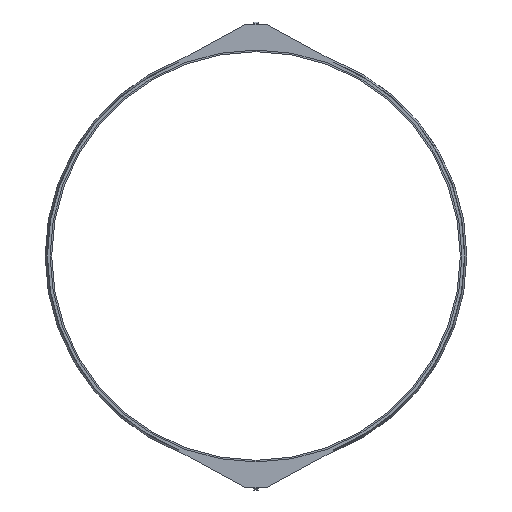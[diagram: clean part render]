
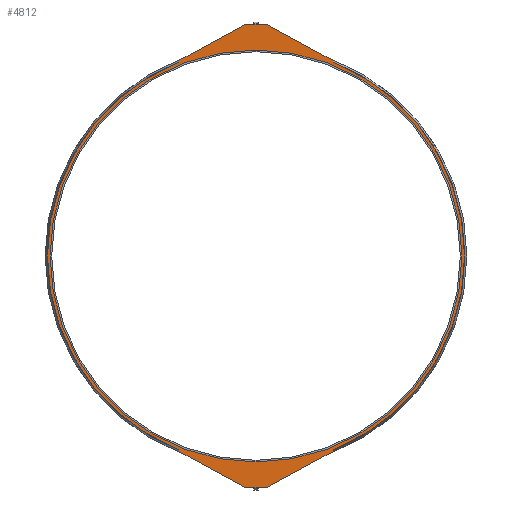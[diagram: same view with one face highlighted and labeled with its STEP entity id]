
A CAD part, left-side view. The second image highlights one B-rep face of the part: STEP entity #4812.
In plain terms, the highlighted planar face has unit normal (-1, 0, 0).
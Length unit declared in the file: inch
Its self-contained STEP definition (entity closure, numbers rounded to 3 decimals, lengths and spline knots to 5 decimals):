
#134=FACE_BOUND('',#838,.T.);
#308=PLANE('',#5231);
#555=FACE_OUTER_BOUND('',#837,.T.);
#837=EDGE_LOOP('',(#4252,#4253,#4254,#4255,#4256,#4257,#4258,#4259,#4260,
#4261,#4262,#4263,#4264,#4265,#4266,#4267,#4268,#4269,#4270,#4271));
#838=EDGE_LOOP('',(#4272,#4273));
#1004=LINE('',#6952,#1469);
#1007=LINE('',#6960,#1472);
#1011=LINE('',#6969,#1476);
#1014=LINE('',#6977,#1479);
#1015=LINE('',#6980,#1480);
#1245=LINE('',#7817,#1710);
#1249=LINE('',#7826,#1714);
#1252=LINE('',#7834,#1717);
#1255=LINE('',#7841,#1720);
#1257=LINE('',#7845,#1722);
#1469=VECTOR('',#5636,0.3937);
#1472=VECTOR('',#5645,0.3937);
#1476=VECTOR('',#5655,0.3937);
#1479=VECTOR('',#5664,0.3937);
#1480=VECTOR('',#5667,0.3937);
#1710=VECTOR('',#6253,0.3937);
#1714=VECTOR('',#6263,0.3937);
#1717=VECTOR('',#6272,0.3937);
#1720=VECTOR('',#6281,0.3937);
#1722=VECTOR('',#6285,0.3937);
#1800=CIRCLE('',#4943,0.063);
#1801=CIRCLE('',#4946,0.125);
#1802=CIRCLE('',#4949,0.125);
#1803=CIRCLE('',#4952,0.063);
#1806=CIRCLE('',#4958,48.625);
#1863=CIRCLE('',#5131,0.063);
#1864=CIRCLE('',#5134,0.125);
#1865=CIRCLE('',#5137,0.125);
#1866=CIRCLE('',#5140,0.063);
#1876=CIRCLE('',#5171,48.625);
#1919=CIRCLE('',#5229,48.);
#1920=CIRCLE('',#5230,48.);
#2056=VERTEX_POINT('',#6944);
#2057=VERTEX_POINT('',#6946);
#2058=VERTEX_POINT('',#6950);
#2059=VERTEX_POINT('',#6954);
#2060=VERTEX_POINT('',#6958);
#2061=VERTEX_POINT('',#6963);
#2062=VERTEX_POINT('',#6967);
#2063=VERTEX_POINT('',#6971);
#2064=VERTEX_POINT('',#6975);
#2065=VERTEX_POINT('',#6979);
#2070=VERTEX_POINT('',#6991);
#2276=VERTEX_POINT('',#7810);
#2277=VERTEX_POINT('',#7812);
#2278=VERTEX_POINT('',#7816);
#2279=VERTEX_POINT('',#7820);
#2280=VERTEX_POINT('',#7825);
#2281=VERTEX_POINT('',#7829);
#2282=VERTEX_POINT('',#7833);
#2283=VERTEX_POINT('',#7837);
#2284=VERTEX_POINT('',#7843);
#2349=VERTEX_POINT('',#8041);
#2350=VERTEX_POINT('',#8043);
#2545=EDGE_CURVE('',#2056,#2057,#1800,.T.);
#2548=EDGE_CURVE('',#2058,#2056,#1004,.T.);
#2550=EDGE_CURVE('',#2059,#2058,#1801,.T.);
#2552=EDGE_CURVE('',#2060,#2059,#1007,.T.);
#2555=EDGE_CURVE('',#2061,#2060,#1802,.T.);
#2557=EDGE_CURVE('',#2062,#2061,#1011,.T.);
#2559=EDGE_CURVE('',#2063,#2062,#1803,.T.);
#2561=EDGE_CURVE('',#2064,#2063,#1014,.T.);
#2562=EDGE_CURVE('',#2057,#2065,#1015,.T.);
#2569=EDGE_CURVE('',#2070,#2064,#1806,.T.);
#2874=EDGE_CURVE('',#2277,#2276,#1863,.T.);
#2876=EDGE_CURVE('',#2278,#2277,#1245,.T.);
#2878=EDGE_CURVE('',#2279,#2278,#1864,.T.);
#2881=EDGE_CURVE('',#2280,#2279,#1249,.T.);
#2883=EDGE_CURVE('',#2281,#2280,#1865,.T.);
#2885=EDGE_CURVE('',#2282,#2281,#1252,.T.);
#2887=EDGE_CURVE('',#2283,#2282,#1866,.T.);
#2889=EDGE_CURVE('',#2070,#2283,#1255,.T.);
#2891=EDGE_CURVE('',#2276,#2284,#1257,.T.);
#2940=EDGE_CURVE('',#2065,#2284,#1876,.T.);
#2990=EDGE_CURVE('',#2350,#2349,#1919,.T.);
#2991=EDGE_CURVE('',#2349,#2350,#1920,.T.);
#4252=ORIENTED_EDGE('',*,*,#2569,.F.);
#4253=ORIENTED_EDGE('',*,*,#2889,.T.);
#4254=ORIENTED_EDGE('',*,*,#2887,.T.);
#4255=ORIENTED_EDGE('',*,*,#2885,.T.);
#4256=ORIENTED_EDGE('',*,*,#2883,.T.);
#4257=ORIENTED_EDGE('',*,*,#2881,.T.);
#4258=ORIENTED_EDGE('',*,*,#2878,.T.);
#4259=ORIENTED_EDGE('',*,*,#2876,.T.);
#4260=ORIENTED_EDGE('',*,*,#2874,.T.);
#4261=ORIENTED_EDGE('',*,*,#2891,.T.);
#4262=ORIENTED_EDGE('',*,*,#2940,.F.);
#4263=ORIENTED_EDGE('',*,*,#2562,.F.);
#4264=ORIENTED_EDGE('',*,*,#2545,.F.);
#4265=ORIENTED_EDGE('',*,*,#2548,.F.);
#4266=ORIENTED_EDGE('',*,*,#2550,.F.);
#4267=ORIENTED_EDGE('',*,*,#2552,.F.);
#4268=ORIENTED_EDGE('',*,*,#2555,.F.);
#4269=ORIENTED_EDGE('',*,*,#2557,.F.);
#4270=ORIENTED_EDGE('',*,*,#2559,.F.);
#4271=ORIENTED_EDGE('',*,*,#2561,.F.);
#4272=ORIENTED_EDGE('',*,*,#2990,.T.);
#4273=ORIENTED_EDGE('',*,*,#2991,.T.);
#4812=ADVANCED_FACE('',(#555,#134),#308,.T.);
#4943=AXIS2_PLACEMENT_3D('',#6947,#5630,#5631);
#4946=AXIS2_PLACEMENT_3D('',#6956,#5640,#5641);
#4949=AXIS2_PLACEMENT_3D('',#6965,#5650,#5651);
#4952=AXIS2_PLACEMENT_3D('',#6973,#5659,#5660);
#4958=AXIS2_PLACEMENT_3D('',#6993,#5678,#5679);
#5131=AXIS2_PLACEMENT_3D('',#7813,#6248,#6249);
#5134=AXIS2_PLACEMENT_3D('',#7821,#6257,#6258);
#5137=AXIS2_PLACEMENT_3D('',#7830,#6267,#6268);
#5140=AXIS2_PLACEMENT_3D('',#7838,#6276,#6277);
#5171=AXIS2_PLACEMENT_3D('',#7942,#6381,#6382);
#5229=AXIS2_PLACEMENT_3D('',#8044,#6504,#6505);
#5230=AXIS2_PLACEMENT_3D('',#8045,#6506,#6507);
#5231=AXIS2_PLACEMENT_3D('',#8046,#6508,#6509);
#5630=DIRECTION('center_axis',(1.,0.,0.));
#5631=DIRECTION('ref_axis',(0.,-1.,0.));
#5636=DIRECTION('',(0.,0.879,0.478));
#5640=DIRECTION('center_axis',(1.,0.,0.));
#5641=DIRECTION('ref_axis',(0.,-0.478,0.879));
#5645=DIRECTION('',(0.,1.,0.));
#5650=DIRECTION('center_axis',(1.,0.,0.));
#5651=DIRECTION('ref_axis',(0.,0.,1.));
#5655=DIRECTION('',(0.,0.879,-0.478));
#5659=DIRECTION('center_axis',(1.,0.,0.));
#5660=DIRECTION('ref_axis',(0.,0.478,0.879));
#5664=DIRECTION('',(0.,0.,-1.));
#5667=DIRECTION('',(0.,0.,1.));
#5678=DIRECTION('center_axis',(1.,0.,0.));
#5679=DIRECTION('ref_axis',(0.,0.,-1.));
#6248=DIRECTION('center_axis',(-1.,0.,0.));
#6249=DIRECTION('ref_axis',(0.,-1.,0.));
#6253=DIRECTION('',(0.,0.879,-0.478));
#6257=DIRECTION('center_axis',(-1.,0.,0.));
#6258=DIRECTION('ref_axis',(0.,-0.478,-0.879));
#6263=DIRECTION('',(0.,1.,0.));
#6267=DIRECTION('center_axis',(-1.,0.,0.));
#6268=DIRECTION('ref_axis',(0.,0.,-1.));
#6272=DIRECTION('',(0.,0.879,0.478));
#6276=DIRECTION('center_axis',(-1.,0.,0.));
#6277=DIRECTION('ref_axis',(0.,0.478,-0.879));
#6281=DIRECTION('',(0.,0.,1.));
#6285=DIRECTION('',(0.,0.,-1.));
#6381=DIRECTION('center_axis',(1.,0.,0.));
#6382=DIRECTION('ref_axis',(0.,0.,-1.));
#6504=DIRECTION('center_axis',(1.,0.,0.));
#6505=DIRECTION('ref_axis',(0.,0.,-1.));
#6506=DIRECTION('center_axis',(1.,0.,0.));
#6507=DIRECTION('ref_axis',(0.,0.,-1.));
#6508=DIRECTION('center_axis',(-1.,0.,0.));
#6509=DIRECTION('ref_axis',(0.,0.,1.));
#6944=CARTESIAN_POINT('',(-7.5,17.96709,-45.56357));
#6946=CARTESIAN_POINT('',(-7.5,18.,-45.50822));
#6947=CARTESIAN_POINT('Origin',(-7.5,17.937,-45.50822));
#6950=CARTESIAN_POINT('',(-7.5,2.42792,-54.00982));
#6952=CARTESIAN_POINT('',(-7.5,2.42792,-54.00982));
#6954=CARTESIAN_POINT('',(-7.5,2.36822,-54.025));
#6956=CARTESIAN_POINT('Origin',(-7.5,2.36822,-53.9));
#6958=CARTESIAN_POINT('',(-7.5,-2.36822,-54.025));
#6960=CARTESIAN_POINT('',(-7.5,0.,-54.025));
#6963=CARTESIAN_POINT('',(-7.5,-2.42792,-54.00982));
#6965=CARTESIAN_POINT('Origin',(-7.5,-2.36822,-53.9));
#6967=CARTESIAN_POINT('',(-7.5,-17.96709,-45.56357));
#6969=CARTESIAN_POINT('',(-7.5,-17.96709,-45.56357));
#6971=CARTESIAN_POINT('',(-7.5,-18.,-45.50822));
#6973=CARTESIAN_POINT('Origin',(-7.5,-17.937,-45.50822));
#6975=CARTESIAN_POINT('',(-7.5,-18.,-45.17068));
#6977=CARTESIAN_POINT('',(-7.5,-18.,-45.17068));
#6979=CARTESIAN_POINT('',(-7.5,18.,-45.17068));
#6980=CARTESIAN_POINT('',(-7.5,18.,-45.50822));
#6991=CARTESIAN_POINT('',(-7.5,-18.,45.17068));
#6993=CARTESIAN_POINT('Origin',(-7.5,0.,0.));
#7810=CARTESIAN_POINT('',(-7.5,18.,45.50822));
#7812=CARTESIAN_POINT('',(-7.5,17.96709,45.56357));
#7813=CARTESIAN_POINT('Origin',(-7.5,17.937,45.50822));
#7816=CARTESIAN_POINT('',(-7.5,2.42792,54.00982));
#7817=CARTESIAN_POINT('',(-7.5,2.42792,54.00982));
#7820=CARTESIAN_POINT('',(-7.5,2.36822,54.025));
#7821=CARTESIAN_POINT('Origin',(-7.5,2.36822,53.9));
#7825=CARTESIAN_POINT('',(-7.5,-2.36822,54.025));
#7826=CARTESIAN_POINT('',(-7.5,0.,54.025));
#7829=CARTESIAN_POINT('',(-7.5,-2.42792,54.00982));
#7830=CARTESIAN_POINT('Origin',(-7.5,-2.36822,53.9));
#7833=CARTESIAN_POINT('',(-7.5,-17.96709,45.56357));
#7834=CARTESIAN_POINT('',(-7.5,-17.96709,45.56357));
#7837=CARTESIAN_POINT('',(-7.5,-18.,45.50822));
#7838=CARTESIAN_POINT('Origin',(-7.5,-17.937,45.50822));
#7841=CARTESIAN_POINT('',(-7.5,-18.,45.17068));
#7843=CARTESIAN_POINT('',(-7.5,18.,45.17068));
#7845=CARTESIAN_POINT('',(-7.5,18.,45.50822));
#7942=CARTESIAN_POINT('Origin',(-7.5,0.,0.));
#8041=CARTESIAN_POINT('',(-7.5,-48.,0.));
#8043=CARTESIAN_POINT('',(-7.5,48.,0.));
#8044=CARTESIAN_POINT('Origin',(-7.5,0.,0.));
#8045=CARTESIAN_POINT('Origin',(-7.5,0.,0.));
#8046=CARTESIAN_POINT('Origin',(-7.5,48.625,0.));
